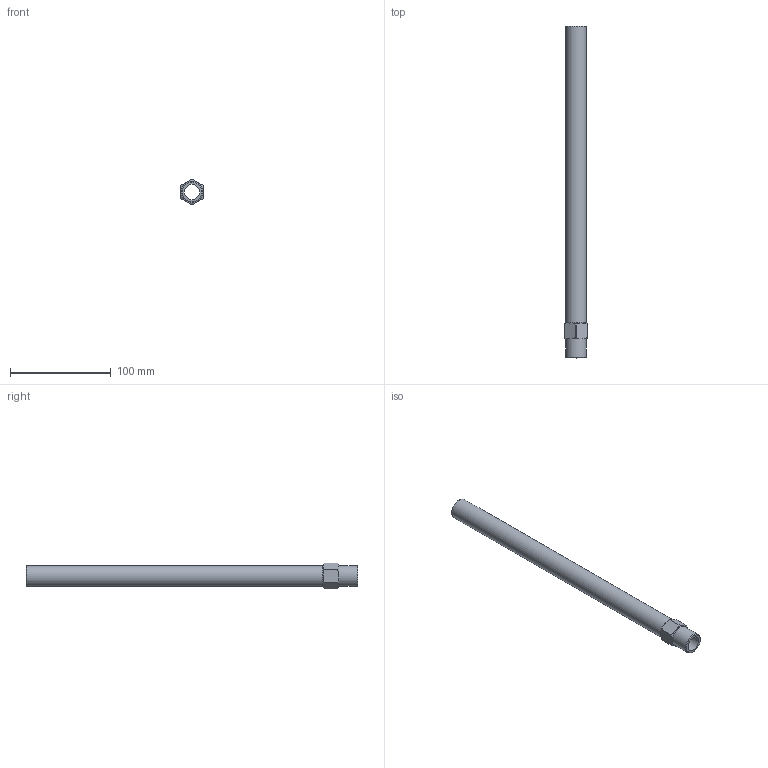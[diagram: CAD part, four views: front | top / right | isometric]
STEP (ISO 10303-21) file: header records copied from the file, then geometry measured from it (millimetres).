
FILE_DESCRIPTION(/* description */ (''),/* implementation_level */ '2;1');
FILE_NAME(/* name */ 'C:/Users/drich/Desktop/APN12-13 v1.step',/* time_stamp */ '2019-12-27T17:42:30-06:00',/* author */ (''),/* organization */ (''),/* preprocessor_version */ 'ST-DEVELOPER v18',/* originating_system */ 'Autodesk Translation Framework v8.12.0.6',/* authorisation */ '');
FILE_SCHEMA (('AUTOMOTIVE_DESIGN { 1 0 10303 214 3 1 1 }','INTEGRATED_CNC_SCHEMA'));
Length unit declared in the file: inch
Products named in the file (1): APN12-13
Bounding box: 22.23 x 330.2 x 25.65 mm (x, y, z)
Volume: 55012.2 mm3; surface area: 37752.4 mm2
Topology: 1 solids, 1 shells, 23 faces, 59 edges, 40 vertices
Faces by surface type: plane 10, cylinder 9, cone 4
Full cylindrical faces by diameter (mm): 15.037 x1, 20.813 x2
Entity records: 751 total; most frequent: CARTESIAN_POINT 147, DIRECTION 123, ORIENTED_EDGE 118, EDGE_CURVE 59, AXIS2_PLACEMENT_3D 52, VERTEX_POINT 40, CIRCLE 28, EDGE_LOOP 27
